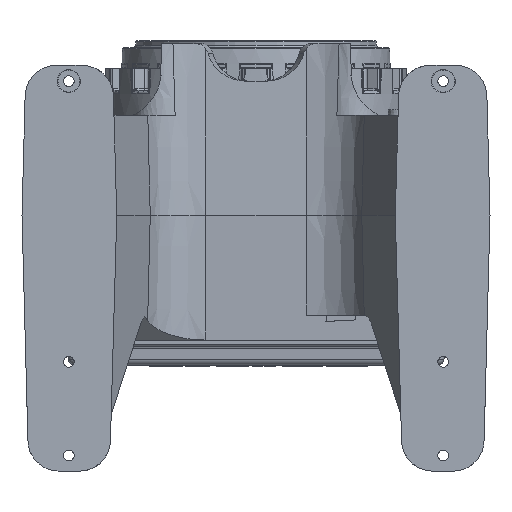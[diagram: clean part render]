
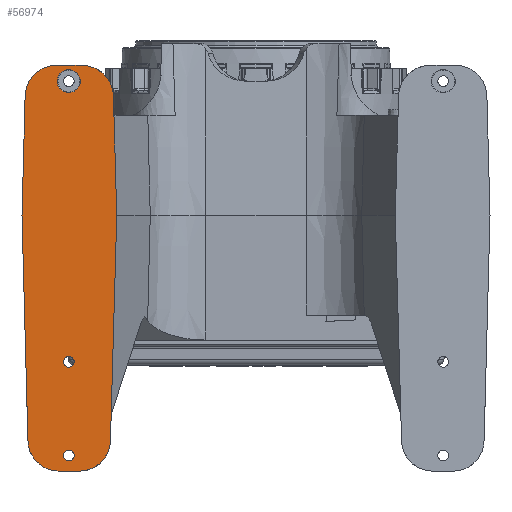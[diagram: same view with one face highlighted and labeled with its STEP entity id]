
A CAD part, front view. The second image highlights one B-rep face of the part: STEP entity #56974.
In plain terms, the highlighted planar face has unit normal (0, -1, 0).
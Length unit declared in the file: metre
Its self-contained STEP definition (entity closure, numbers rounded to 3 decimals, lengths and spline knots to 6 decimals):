
#856 = AXIS2_PLACEMENT_3D ( 'NONE', #13615, #64383, #20935 ) ;
#1298 = CARTESIAN_POINT ( 'NONE',  ( -0.278494, -0.53, 0.19 ) ) ;
#1412 = VECTOR ( 'NONE', #87516, 1. ) ;
#3297 = EDGE_CURVE ( 'NONE', #24520, #18377, #87471, .T. ) ;
#4162 = DIRECTION ( 'NONE',  ( 0., -1., 0. ) ) ;
#4441 = DIRECTION ( 'NONE',  ( 0., 1., 0. ) ) ;
#5468 = VECTOR ( 'NONE', #13438, 1. ) ;
#6023 = CARTESIAN_POINT ( 'NONE',  ( -0.283231, -0.53, -0.36 ) ) ;
#7469 = CARTESIAN_POINT ( 'NONE',  ( -0.228514, -0.53, 0.191393 ) ) ;
#7565 = CIRCLE ( 'NONE', #82550, 0.05 ) ;
#7685 = ORIENTED_EDGE ( 'NONE', *, *, #3297, .T. ) ;
#8528 = EDGE_LOOP ( 'NONE', ( #7685, #69080, #25096, #27828, #25772, #48206, #87295, #90724, #41194, #62573 ) ) ;
#8608 = DIRECTION ( 'NONE',  ( 0., 0., 1. ) ) ;
#8849 = LINE ( 'NONE', #93490, #83908 ) ;
#12125 = CARTESIAN_POINT ( 'NONE',  ( -0.3, -0.53, -0.235 ) ) ;
#13324 = DIRECTION ( 'NONE',  ( 0., 0., 1. ) ) ;
#13438 = DIRECTION ( 'NONE',  ( 0.026, 0., -1. ) ) ;
#13615 = CARTESIAN_POINT ( 'NONE',  ( -0.3, -0.53, 0.215 ) ) ;
#14005 = DIRECTION ( 'NONE',  ( 0.028, 0., -1. ) ) ;
#14497 = VECTOR ( 'NONE', #68518, 1. ) ;
#15990 = VERTEX_POINT ( 'NONE', #82063 ) ;
#17776 = CARTESIAN_POINT ( 'NONE',  ( -0.364264, -0.53, -0.41 ) ) ;
#17798 = CARTESIAN_POINT ( 'NONE',  ( -0.3, -0.53, 0.2335 ) ) ;
#18113 = FACE_OUTER_BOUND ( 'NONE', #8528, .T. ) ;
#18377 = VERTEX_POINT ( 'NONE', #72813 ) ;
#18679 = CARTESIAN_POINT ( 'NONE',  ( -0.315556, -0.53, -0.36 ) ) ;
#19453 = DIRECTION ( 'NONE',  ( 0., 0., -1. ) ) ;
#19736 = EDGE_CURVE ( 'NONE', #15990, #76112, #80963, .T. ) ;
#20935 = DIRECTION ( 'NONE',  ( 0., 0., 1. ) ) ;
#21198 = DIRECTION ( 'NONE',  ( 0.026, 0., 1. ) ) ;
#24236 = AXIS2_PLACEMENT_3D ( 'NONE', #47727, #4162, #55023 ) ;
#24520 = VERTEX_POINT ( 'NONE', #81799 ) ;
#25096 = ORIENTED_EDGE ( 'NONE', *, *, #87206, .F. ) ;
#25255 = ORIENTED_EDGE ( 'NONE', *, *, #76444, .T. ) ;
#25772 = ORIENTED_EDGE ( 'NONE', *, *, #19736, .F. ) ;
#25970 = DIRECTION ( 'NONE',  ( 0., 0., 1. ) ) ;
#27526 = CIRCLE ( 'NONE', #856, 0.0185 ) ;
#27553 = EDGE_CURVE ( 'NONE', #37982, #37982, #47774, .T. ) ;
#27828 = ORIENTED_EDGE ( 'NONE', *, *, #65970, .T. ) ;
#28300 = CARTESIAN_POINT ( 'NONE',  ( -0.22318, -0.53, 0. ) ) ;
#29466 = VERTEX_POINT ( 'NONE', #68269 ) ;
#29718 = VECTOR ( 'NONE', #14005, 1. ) ;
#31344 = EDGE_LOOP ( 'NONE', ( #25255 ) ) ;
#31578 = VERTEX_POINT ( 'NONE', #87825 ) ;
#35348 = CARTESIAN_POINT ( 'NONE',  ( -0.375, -0.53, 0. ) ) ;
#35858 = EDGE_LOOP ( 'NONE', ( #59541 ) ) ;
#36089 = CARTESIAN_POINT ( 'NONE',  ( -0.320008, -0.53, 0.19 ) ) ;
#37982 = VERTEX_POINT ( 'NONE', #56904 ) ;
#39340 = LINE ( 'NONE', #64660, #77936 ) ;
#40229 = AXIS2_PLACEMENT_3D ( 'NONE', #6023, #56849, #13324 ) ;
#41194 = ORIENTED_EDGE ( 'NONE', *, *, #74620, .T. ) ;
#43429 = DIRECTION ( 'NONE',  ( 0., 0., 1. ) ) ;
#44366 = EDGE_CURVE ( 'NONE', #56107, #56107, #59151, .T. ) ;
#45069 = CARTESIAN_POINT ( 'NONE',  ( -0.36999, -0.53, 0.191309 ) ) ;
#46519 = CARTESIAN_POINT ( 'NONE',  ( -0.278494, -0.53, 0.24 ) ) ;
#46623 = EDGE_CURVE ( 'NONE', #94210, #64933, #39340, .T. ) ;
#47727 = CARTESIAN_POINT ( 'NONE',  ( -0.3, -0.53, -0.385 ) ) ;
#47774 = CIRCLE ( 'NONE', #24236, 0.0085 ) ;
#47994 = CARTESIAN_POINT ( 'NONE',  ( -0.375, -0.53, 0.320981 ) ) ;
#48206 = ORIENTED_EDGE ( 'NONE', *, *, #67353, .T. ) ;
#52122 = DIRECTION ( 'NONE',  ( 0., -1., 0. ) ) ;
#53233 = LINE ( 'NONE', #35348, #5468 ) ;
#53745 = VERTEX_POINT ( 'NONE', #17798 ) ;
#54026 = EDGE_CURVE ( 'NONE', #87054, #18377, #8849, .T. ) ;
#54492 = FACE_BOUND ( 'NONE', #35858, .T. ) ;
#55023 = DIRECTION ( 'NONE',  ( 0., 0., -1. ) ) ;
#55303 = DIRECTION ( 'NONE',  ( 0., 0., 1. ) ) ;
#56107 = VERTEX_POINT ( 'NONE', #72367 ) ;
#56849 = DIRECTION ( 'NONE',  ( 0., -1., 0. ) ) ;
#56904 = CARTESIAN_POINT ( 'NONE',  ( -0.3, -0.53, -0.3935 ) ) ;
#56974 = ADVANCED_FACE ( 'NONE', ( #93072, #54492, #73741, #18113 ), #62226, .F. ) ;
#59151 = CIRCLE ( 'NONE', #72523, 0.0085 ) ;
#59541 = ORIENTED_EDGE ( 'NONE', *, *, #27553, .F. ) ;
#61499 = AXIS2_PLACEMENT_3D ( 'NONE', #18679, #69399, #25970 ) ;
#62226 = PLANE ( 'NONE',  #89810 ) ;
#62573 = ORIENTED_EDGE ( 'NONE', *, *, #83455, .F. ) ;
#62884 = DIRECTION ( 'NONE',  ( 0., -1., 0. ) ) ;
#63917 = DIRECTION ( 'NONE',  ( -0.028, 0., -1. ) ) ;
#64383 = DIRECTION ( 'NONE',  ( 0., 1., 0. ) ) ;
#64660 = CARTESIAN_POINT ( 'NONE',  ( -0.375, -0.53, 0. ) ) ;
#64933 = VERTEX_POINT ( 'NONE', #45069 ) ;
#65354 = VERTEX_POINT ( 'NONE', #7469 ) ;
#65516 = CARTESIAN_POINT ( 'NONE',  ( -0.368715, -0.53, 0.24 ) ) ;
#65970 = EDGE_CURVE ( 'NONE', #65354, #76112, #7565, .T. ) ;
#67353 = EDGE_CURVE ( 'NONE', #15990, #64933, #70152, .T. ) ;
#67799 = EDGE_CURVE ( 'NONE', #94210, #29466, #53233, .T. ) ;
#68269 = CARTESIAN_POINT ( 'NONE',  ( -0.365539, -0.53, -0.361309 ) ) ;
#68518 = DIRECTION ( 'NONE',  ( -1., 0., 0. ) ) ;
#69080 = ORIENTED_EDGE ( 'NONE', *, *, #54026, .F. ) ;
#69399 = DIRECTION ( 'NONE',  ( 0., -1., 0. ) ) ;
#70132 = LINE ( 'NONE', #17776, #14497 ) ;
#70152 = CIRCLE ( 'NONE', #74707, 0.05 ) ;
#72267 = CIRCLE ( 'NONE', #61499, 0.05 ) ;
#72367 = CARTESIAN_POINT ( 'NONE',  ( -0.3, -0.53, -0.2435 ) ) ;
#72523 = AXIS2_PLACEMENT_3D ( 'NONE', #12125, #62884, #19453 ) ;
#72813 = CARTESIAN_POINT ( 'NONE',  ( -0.233251, -0.53, -0.361393 ) ) ;
#73741 = FACE_BOUND ( 'NONE', #90824, .T. ) ;
#74620 = EDGE_CURVE ( 'NONE', #29466, #31578, #72267, .T. ) ;
#74707 = AXIS2_PLACEMENT_3D ( 'NONE', #36089, #86940, #43429 ) ;
#76112 = VERTEX_POINT ( 'NONE', #46519 ) ;
#76444 = EDGE_CURVE ( 'NONE', #53745, #53745, #27526, .T. ) ;
#77936 = VECTOR ( 'NONE', #21198, 1. ) ;
#80177 = CARTESIAN_POINT ( 'NONE',  ( -0.375, -0.53, 0. ) ) ;
#80963 = LINE ( 'NONE', #65516, #1412 ) ;
#81799 = CARTESIAN_POINT ( 'NONE',  ( -0.283231, -0.53, -0.41 ) ) ;
#82063 = CARTESIAN_POINT ( 'NONE',  ( -0.320008, -0.53, 0.24 ) ) ;
#82550 = AXIS2_PLACEMENT_3D ( 'NONE', #1298, #52122, #8608 ) ;
#83455 = EDGE_CURVE ( 'NONE', #24520, #31578, #70132, .T. ) ;
#83908 = VECTOR ( 'NONE', #63917, 1. ) ;
#85437 = LINE ( 'NONE', #28300, #29718 ) ;
#86940 = DIRECTION ( 'NONE',  ( 0., -1., 0. ) ) ;
#87054 = VERTEX_POINT ( 'NONE', #90610 ) ;
#87206 = EDGE_CURVE ( 'NONE', #65354, #87054, #85437, .T. ) ;
#87295 = ORIENTED_EDGE ( 'NONE', *, *, #46623, .F. ) ;
#87471 = CIRCLE ( 'NONE', #40229, 0.05 ) ;
#87516 = DIRECTION ( 'NONE',  ( 1., 0., 0. ) ) ;
#87825 = CARTESIAN_POINT ( 'NONE',  ( -0.315556, -0.53, -0.41 ) ) ;
#89810 = AXIS2_PLACEMENT_3D ( 'NONE', #47994, #4441, #55303 ) ;
#90610 = CARTESIAN_POINT ( 'NONE',  ( -0.22318, -0.53, 0. ) ) ;
#90724 = ORIENTED_EDGE ( 'NONE', *, *, #67799, .T. ) ;
#90824 = EDGE_LOOP ( 'NONE', ( #93363 ) ) ;
#93072 = FACE_BOUND ( 'NONE', #31344, .T. ) ;
#93363 = ORIENTED_EDGE ( 'NONE', *, *, #44366, .F. ) ;
#93490 = CARTESIAN_POINT ( 'NONE',  ( -0.22318, -0.53, 0. ) ) ;
#94210 = VERTEX_POINT ( 'NONE', #80177 ) ;
